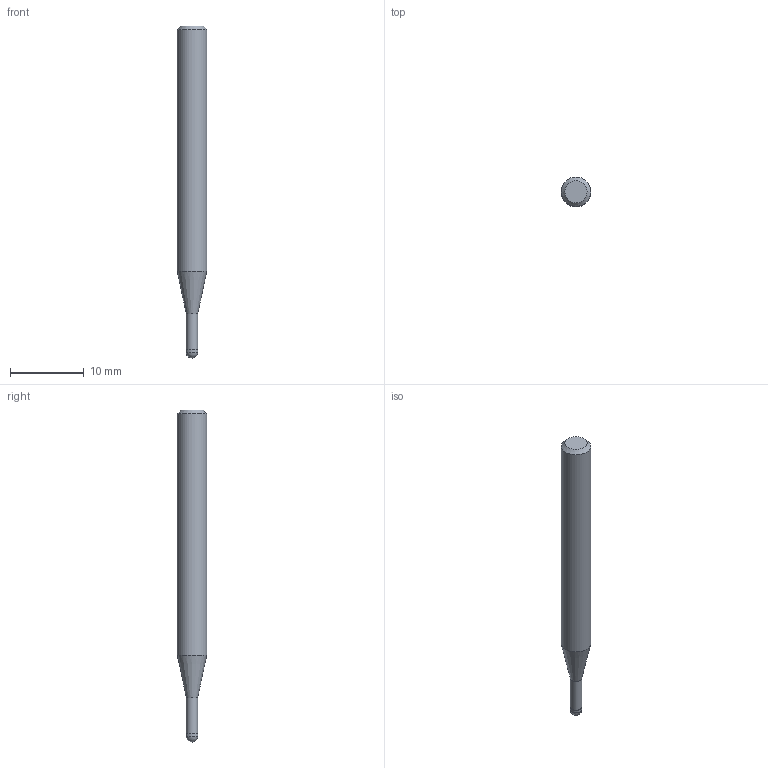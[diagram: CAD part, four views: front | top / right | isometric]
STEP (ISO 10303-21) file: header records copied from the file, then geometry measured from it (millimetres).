
FILE_DESCRIPTION((''),'2;1');
FILE_NAME('C:\Users\nsx150\AppData\Local\Temp\Mastercam 2021\ARV7HD45SN\TEMP.step','2023-06-13T16:36:47',(''),(''),'STEP Write','Mastercam 2021 ... CNC Software, Inc.','');
FILE_SCHEMA(('AUTOMOTIVE_DESIGN'));
Length unit declared in the file: millimetre
Products named in the file (1): None
Bounding box: 4 x 4 x 45 mm (x, y, z)
Volume: 464.3 mm3; surface area: 510.9 mm2
Topology: 2 solids, 2 shells, 9 faces, 14 edges, 8 vertices
Faces by surface type: plane 3, cylinder 3, cone 2, sphere 1
Full cylindrical faces by diameter (mm): 1.55 x1, 1.6 x1, 4 x1
Entity records: 211 total; most frequent: DIRECTION 36, CARTESIAN_POINT 25, AXIS2_PLACEMENT_3D 18, ORIENTED_EDGE 14, EDGE_LOOP 14, STYLED_ITEM 12, ADVANCED_FACE 9, FACE_BOUND 8
